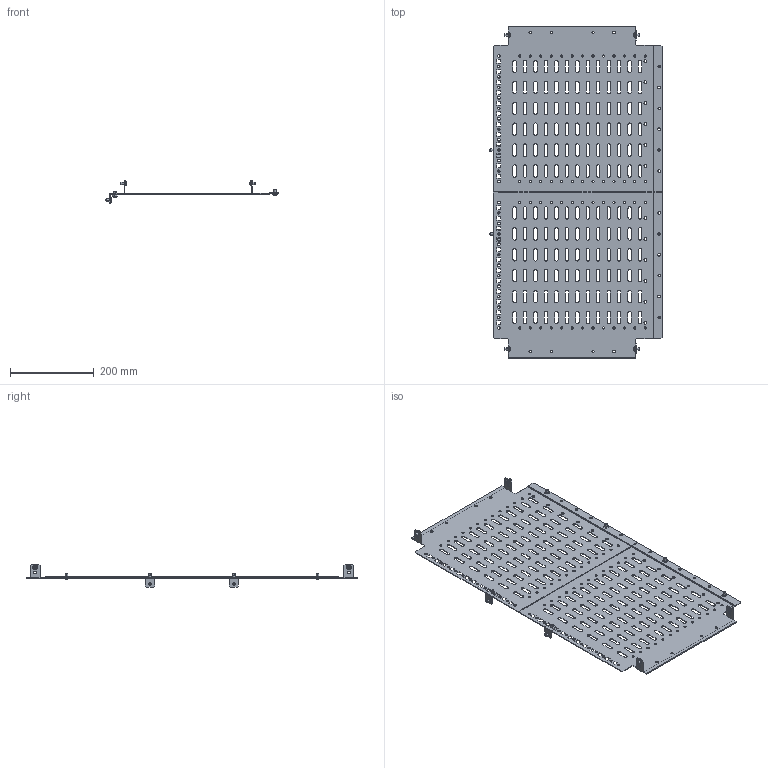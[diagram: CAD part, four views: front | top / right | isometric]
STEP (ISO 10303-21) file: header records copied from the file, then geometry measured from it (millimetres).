
FILE_DESCRIPTION (( 'STEP AP214' ), '1' );
FILE_NAME ('FO-00-SWH-080-040 Ïåðåãîðîäêà ñåêöèîíèðîâàíèÿ ãîðèçîíòàëüíàÿ 800õ400 ìì â øêàô ãëóáèíîé 800 ìì.STEP', '2025-08-13T09:10:21', ( '' ), ( '' ), 'SwSTEP 2.0', 'SolidWorks 2023', '' );
FILE_SCHEMA (( 'AUTOMOTIVE_DESIGN' ));
Length unit declared in the file: millimetre
Products named in the file (7): FO-00-SWH-080-040 Перегородка секционирования горизонтальная 800х400 мм в шкаф глубиной 800 мм; Уголоk; Перегородка секционирования горизонтальная 800х400 мм в шкаф глубиной 800 мм (L); Уголок; Перегородка секционирования горизонтальная 800х400 мм в шкаф глубиной 800 мм R; Перегородка секционирования горизонтальная 800х400 мм в шкаф глубиной 800 мм L; Перегородка секционирования горизонтальная 800х400 мм в шкаф глубиной 800 мм (R)
Assembly tree (6 placements, depth 3):
  FO-00-SWH-080-040 Перегородка секционирования горизонтальная 800х400 мм в шкаф глубиной 800 мм
    Перегородка секционирования горизонтальная 800х400 мм в шкаф глубиной 800 мм (L)
      Перегородка секционирования горизонтальная 800х400 мм в шкаф глубиной 800 мм L
      Уголок
    Перегородка секционирования горизонтальная 800х400 мм в шкаф глубиной 800 мм (R)
      Перегородка секционирования горизонтальная 800х400 мм в шкаф глубиной 800 мм R
      Уголоk
Bounding box: 411.5 x 793.6 x 54 mm (x, y, z)
Volume: 429186.6 mm3; surface area: 582450.5 mm2
Topology: 5 solids, 5 shells, 1591 faces, 4596 edges, 3042 vertices
Faces by surface type: cylinder 774, plane 751, cone 28, sphere 20, torus 18
Entity records: 54253 total; most frequent: CARTESIAN_POINT 9910, ORIENTED_EDGE 9192, DIRECTION 9112, EDGE_CURVE 4596, AXIS2_PLACEMENT_3D 3084, VERTEX_POINT 3042, VECTOR 2944, LINE 2944
